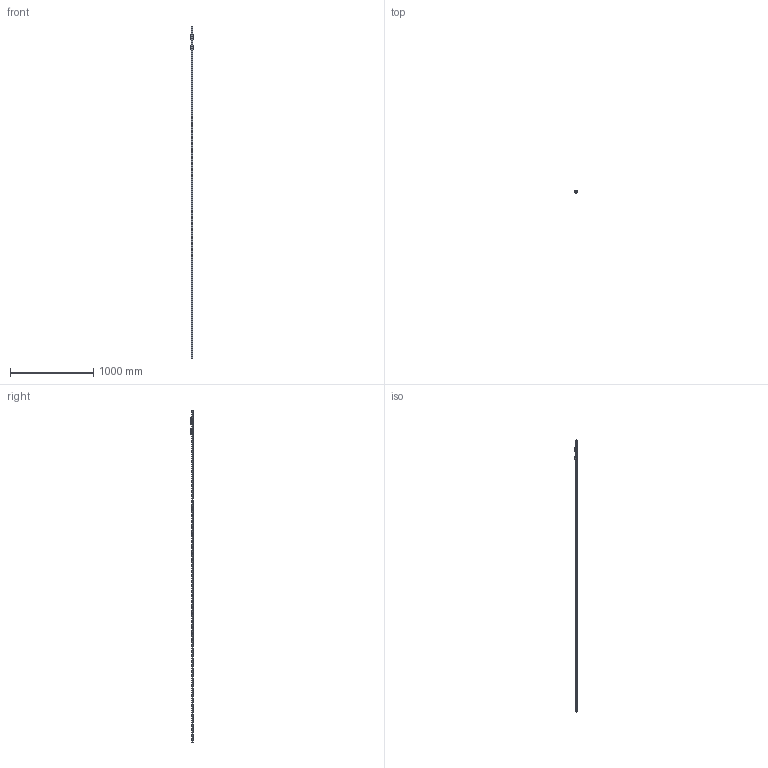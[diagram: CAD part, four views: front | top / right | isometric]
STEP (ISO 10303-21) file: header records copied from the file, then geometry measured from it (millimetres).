
FILE_DESCRIPTION((''),'2;1');
FILE_NAME('BRS20-SU_CUSTOMER_ASM_AS_ASM','2020-11-24T16:13:21',('TWVS2025'),(''),'CREO PARAMETRIC BY PTC INC, 2018420','CREO PARAMETRIC BY PTC INC, 2018420','');
FILE_SCHEMA(('CONFIG_CONTROL_DESIGN'));
Products named in the file (6): BC-BRC20-SU_ASM_1_1; BRS20-SU_CUSTOMER_ASM_1_ASM_1_ASM; BRR20_CUSTOMER_1_1_1_2_3_4; BC-BRD20-SU_ASM_ASM_1_ASM; BRS20-SU_CUSTOMER_ASM_ASM_1_ASM; BRS20-SU_CUSTOMER_ASM_AS_ASM
Assembly tree (5 placements, depth 4):
  BRS20-SU_CUSTOMER_ASM_AS_ASM
    BRS20-SU_CUSTOMER_ASM_ASM_1_ASM
      BRS20-SU_CUSTOMER_ASM_1_ASM_1_ASM
        BC-BRC20-SU_ASM_1_1
      BRR20_CUSTOMER_1_1_1_2_3_4
      BC-BRD20-SU_ASM_ASM_1_ASM
Bounding box: 41.95 x 28 x 4000 mm (x, y, z)
Volume: 1234138.4 mm3; surface area: 13110482.3 mm2
Topology: 2 solids, 20 shells, 4911 faces, 13954 edges, 9060 vertices
Faces by surface type: plane 2150, cylinder 1382, cone 725, torus 386, bspline 230, sphere 16, revolution 12, extrusion 10
Entity records: 217061 total; most frequent: CARTESIAN_POINT 92363, ORIENTED_EDGE 27742, DIRECTION 24114, EDGE_CURVE 13904, VERTEX_POINT 9060, AXIS2_PLACEMENT_3D 8613, VECTOR 6876, LINE 6866
